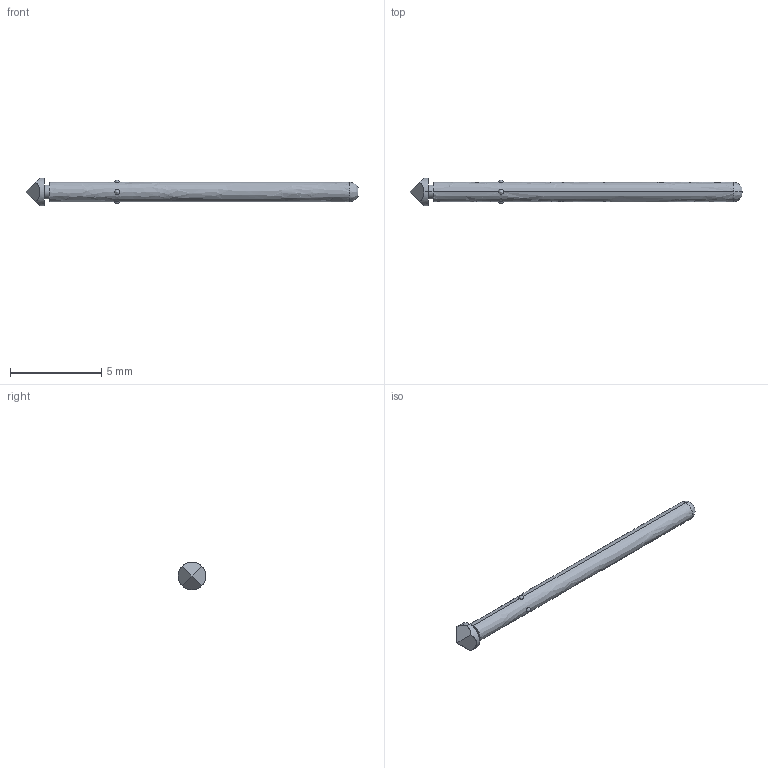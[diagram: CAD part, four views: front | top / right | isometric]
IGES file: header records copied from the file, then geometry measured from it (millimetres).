
Start section: SolidWorks IGES file using analytic representation for surfaces
Global section: file name: O:\PYLON\IGES FILES\P2663\P2663G-1P1S FULL.IGS; native system: SolidWorks 2015; preprocessor: SolidWorks 2015; author: kgolden; date: 171019.102240; units: inch
Bounding box: 18.24 x 1.52 x 1.52 mm (x, y, z)
Surface area: 68.5 mm2 (no closed solid volume)
Topology: 0 solids, 0 shells, 25 faces, 314 edges, 298 vertices
Faces by surface type: revolution 16, bspline 9
